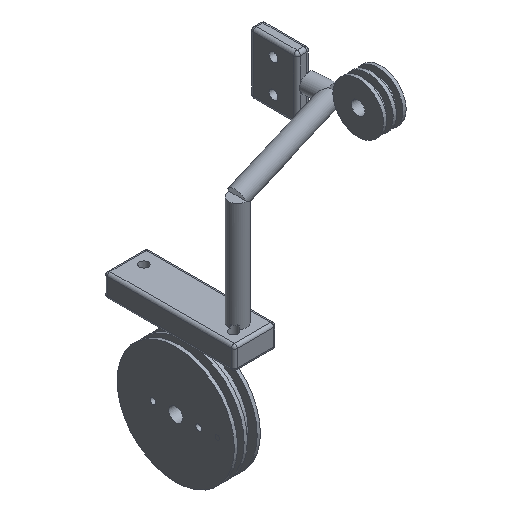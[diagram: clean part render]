
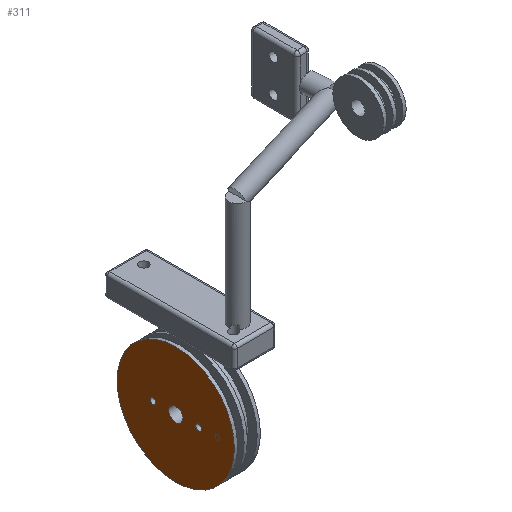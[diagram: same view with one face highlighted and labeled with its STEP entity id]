
A CAD part, isometric view. The second image highlights one B-rep face of the part: STEP entity #311.
In plain terms, the highlighted planar face has unit normal (-1, 0, 0).
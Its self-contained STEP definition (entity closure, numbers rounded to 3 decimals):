
#152 = CYLINDRICAL_SURFACE('',#153,36.);
#153 = AXIS2_PLACEMENT_3D('',#154,#155,#156);
#154 = CARTESIAN_POINT('',(52.,0.,0.));
#155 = DIRECTION('',(1.,0.,0.));
#156 = DIRECTION('',(-0.,0.,1.));
#207 = VERTEX_POINT('',#208);
#208 = CARTESIAN_POINT('',(52.,0.,36.));
#229 = EDGE_CURVE('',#207,#207,#230,.T.);
#230 = SURFACE_CURVE('',#231,(#236,#243),.PCURVE_S1.);
#231 = CIRCLE('',#232,36.);
#232 = AXIS2_PLACEMENT_3D('',#233,#234,#235);
#233 = CARTESIAN_POINT('',(52.,0.,0.));
#234 = DIRECTION('',(1.,0.,0.));
#235 = DIRECTION('',(-0.,0.,1.));
#236 = PCURVE('',#152,#237);
#237 = DEFINITIONAL_REPRESENTATION('',(#238),#242);
#238 = LINE('',#239,#240);
#239 = CARTESIAN_POINT('',(0.,0.));
#240 = VECTOR('',#241,1.);
#241 = DIRECTION('',(1.,0.));
#242 = ( GEOMETRIC_REPRESENTATION_CONTEXT(2) 
PARAMETRIC_REPRESENTATION_CONTEXT() REPRESENTATION_CONTEXT('2D SPACE',''
  ) );
#243 = PCURVE('',#244,#249);
#244 = PLANE('',#245);
#245 = AXIS2_PLACEMENT_3D('',#246,#247,#248);
#246 = CARTESIAN_POINT('',(52.,0.,0.));
#247 = DIRECTION('',(1.,0.,0.));
#248 = DIRECTION('',(-0.,0.,1.));
#249 = DEFINITIONAL_REPRESENTATION('',(#250),#254);
#250 = CIRCLE('',#251,36.);
#251 = AXIS2_PLACEMENT_2D('',#252,#253);
#252 = CARTESIAN_POINT('',(0.,0.));
#253 = DIRECTION('',(1.,0.));
#254 = ( GEOMETRIC_REPRESENTATION_CONTEXT(2) 
PARAMETRIC_REPRESENTATION_CONTEXT() REPRESENTATION_CONTEXT('2D SPACE',''
  ) );
#311 = ADVANCED_FACE('',(#312,#315,#346,#377),#244,.F.);
#312 = FACE_BOUND('',#313,.F.);
#313 = EDGE_LOOP('',(#314));
#314 = ORIENTED_EDGE('',*,*,#229,.T.);
#315 = FACE_BOUND('',#316,.F.);
#316 = EDGE_LOOP('',(#317));
#317 = ORIENTED_EDGE('',*,*,#318,.F.);
#318 = EDGE_CURVE('',#319,#319,#321,.T.);
#319 = VERTEX_POINT('',#320);
#320 = CARTESIAN_POINT('',(52.,-14.,1.8));
#321 = SURFACE_CURVE('',#322,(#327,#334),.PCURVE_S1.);
#322 = CIRCLE('',#323,1.8);
#323 = AXIS2_PLACEMENT_3D('',#324,#325,#326);
#324 = CARTESIAN_POINT('',(52.,-14.,0.));
#325 = DIRECTION('',(1.,0.,0.));
#326 = DIRECTION('',(-0.,0.,1.));
#327 = PCURVE('',#244,#328);
#328 = DEFINITIONAL_REPRESENTATION('',(#329),#333);
#329 = CIRCLE('',#330,1.8);
#330 = AXIS2_PLACEMENT_2D('',#331,#332);
#331 = CARTESIAN_POINT('',(0.,14.));
#332 = DIRECTION('',(1.,0.));
#333 = ( GEOMETRIC_REPRESENTATION_CONTEXT(2) 
PARAMETRIC_REPRESENTATION_CONTEXT() REPRESENTATION_CONTEXT('2D SPACE',''
  ) );
#334 = PCURVE('',#335,#340);
#335 = CYLINDRICAL_SURFACE('',#336,1.8);
#336 = AXIS2_PLACEMENT_3D('',#337,#338,#339);
#337 = CARTESIAN_POINT('',(51.,-14.,0.));
#338 = DIRECTION('',(1.,0.,0.));
#339 = DIRECTION('',(-0.,0.,1.));
#340 = DEFINITIONAL_REPRESENTATION('',(#341),#345);
#341 = LINE('',#342,#343);
#342 = CARTESIAN_POINT('',(0.,1.));
#343 = VECTOR('',#344,1.);
#344 = DIRECTION('',(1.,0.));
#345 = ( GEOMETRIC_REPRESENTATION_CONTEXT(2) 
PARAMETRIC_REPRESENTATION_CONTEXT() REPRESENTATION_CONTEXT('2D SPACE',''
  ) );
#346 = FACE_BOUND('',#347,.F.);
#347 = EDGE_LOOP('',(#348));
#348 = ORIENTED_EDGE('',*,*,#349,.F.);
#349 = EDGE_CURVE('',#350,#350,#352,.T.);
#350 = VERTEX_POINT('',#351);
#351 = CARTESIAN_POINT('',(52.,14.,1.8));
#352 = SURFACE_CURVE('',#353,(#358,#365),.PCURVE_S1.);
#353 = CIRCLE('',#354,1.8);
#354 = AXIS2_PLACEMENT_3D('',#355,#356,#357);
#355 = CARTESIAN_POINT('',(52.,14.,0.));
#356 = DIRECTION('',(1.,0.,0.));
#357 = DIRECTION('',(-0.,0.,1.));
#358 = PCURVE('',#244,#359);
#359 = DEFINITIONAL_REPRESENTATION('',(#360),#364);
#360 = CIRCLE('',#361,1.8);
#361 = AXIS2_PLACEMENT_2D('',#362,#363);
#362 = CARTESIAN_POINT('',(0.,-14.));
#363 = DIRECTION('',(1.,0.));
#364 = ( GEOMETRIC_REPRESENTATION_CONTEXT(2) 
PARAMETRIC_REPRESENTATION_CONTEXT() REPRESENTATION_CONTEXT('2D SPACE',''
  ) );
#365 = PCURVE('',#366,#371);
#366 = CYLINDRICAL_SURFACE('',#367,1.8);
#367 = AXIS2_PLACEMENT_3D('',#368,#369,#370);
#368 = CARTESIAN_POINT('',(51.,14.,0.));
#369 = DIRECTION('',(1.,0.,0.));
#370 = DIRECTION('',(-0.,0.,1.));
#371 = DEFINITIONAL_REPRESENTATION('',(#372),#376);
#372 = LINE('',#373,#374);
#373 = CARTESIAN_POINT('',(0.,1.));
#374 = VECTOR('',#375,1.);
#375 = DIRECTION('',(1.,0.));
#376 = ( GEOMETRIC_REPRESENTATION_CONTEXT(2) 
PARAMETRIC_REPRESENTATION_CONTEXT() REPRESENTATION_CONTEXT('2D SPACE',''
  ) );
#377 = FACE_BOUND('',#378,.F.);
#378 = EDGE_LOOP('',(#379));
#379 = ORIENTED_EDGE('',*,*,#380,.F.);
#380 = EDGE_CURVE('',#381,#381,#383,.T.);
#381 = VERTEX_POINT('',#382);
#382 = CARTESIAN_POINT('',(52.,0.,4.25));
#383 = SURFACE_CURVE('',#384,(#389,#396),.PCURVE_S1.);
#384 = CIRCLE('',#385,4.25);
#385 = AXIS2_PLACEMENT_3D('',#386,#387,#388);
#386 = CARTESIAN_POINT('',(52.,0.,0.));
#387 = DIRECTION('',(1.,0.,0.));
#388 = DIRECTION('',(-0.,0.,1.));
#389 = PCURVE('',#244,#390);
#390 = DEFINITIONAL_REPRESENTATION('',(#391),#395);
#391 = CIRCLE('',#392,4.25);
#392 = AXIS2_PLACEMENT_2D('',#393,#394);
#393 = CARTESIAN_POINT('',(0.,0.));
#394 = DIRECTION('',(1.,0.));
#395 = ( GEOMETRIC_REPRESENTATION_CONTEXT(2) 
PARAMETRIC_REPRESENTATION_CONTEXT() REPRESENTATION_CONTEXT('2D SPACE',''
  ) );
#396 = PCURVE('',#397,#402);
#397 = CYLINDRICAL_SURFACE('',#398,4.25);
#398 = AXIS2_PLACEMENT_3D('',#399,#400,#401);
#399 = CARTESIAN_POINT('',(52.,0.,0.));
#400 = DIRECTION('',(1.,0.,0.));
#401 = DIRECTION('',(-0.,0.,1.));
#402 = DEFINITIONAL_REPRESENTATION('',(#403),#407);
#403 = LINE('',#404,#405);
#404 = CARTESIAN_POINT('',(0.,0.));
#405 = VECTOR('',#406,1.);
#406 = DIRECTION('',(1.,0.));
#407 = ( GEOMETRIC_REPRESENTATION_CONTEXT(2) 
PARAMETRIC_REPRESENTATION_CONTEXT() REPRESENTATION_CONTEXT('2D SPACE',''
  ) );
